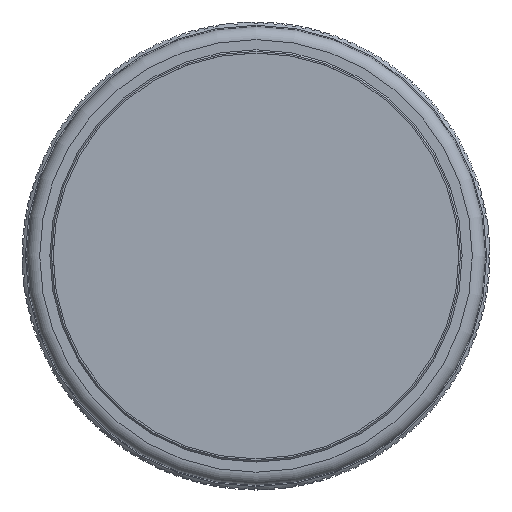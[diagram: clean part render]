
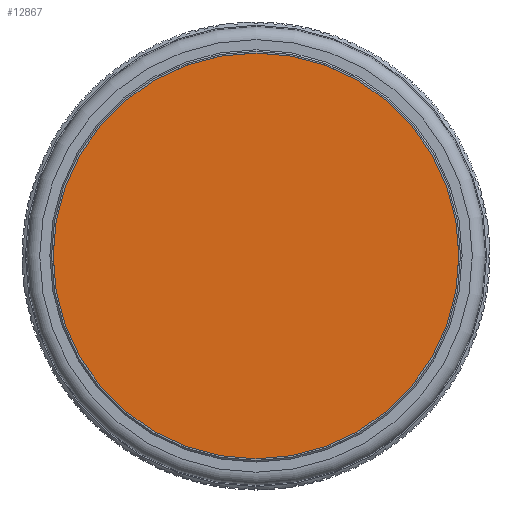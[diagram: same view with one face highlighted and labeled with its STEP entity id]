
A CAD part, top view. The second image highlights one B-rep face of the part: STEP entity #12867.
In plain terms, the highlighted planar face has unit normal (0, 0, 1) as drawn and (-1, 0, 0) by its records, which use the part's own axes.
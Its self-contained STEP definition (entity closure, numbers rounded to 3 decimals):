
#682=PLANE('',#13921);
#1470=FACE_OUTER_BOUND('',#2134,.T.);
#2134=EDGE_LOOP('',(#12009));
#2509=CIRCLE('',#13922,30.999);
#6472=VERTEX_POINT('',#21350);
#8327=EDGE_CURVE('',#6472,#6472,#2509,.T.);
#12009=ORIENTED_EDGE('',*,*,#8327,.F.);
#12867=ADVANCED_FACE('',(#1470),#682,.T.);
#13921=AXIS2_PLACEMENT_3D('',#21349,#17190,#17191);
#13922=AXIS2_PLACEMENT_3D('',#21351,#17192,#17193);
#17190=DIRECTION('center_axis',(-1.,0.,0.));
#17191=DIRECTION('ref_axis',(0.,0.,1.));
#17192=DIRECTION('center_axis',(1.,0.,0.));
#17193=DIRECTION('ref_axis',(0.,1.,0.));
#21349=CARTESIAN_POINT('Origin',(167.935,124.308,0.));
#21350=CARTESIAN_POINT('',(167.935,77.809,0.));
#21351=CARTESIAN_POINT('Origin',(167.935,108.808,0.));
